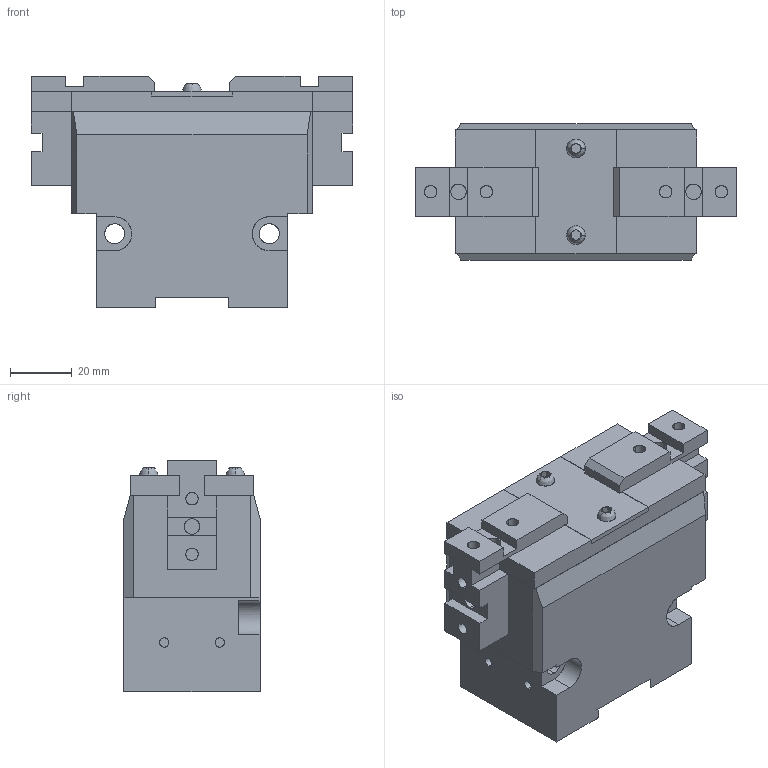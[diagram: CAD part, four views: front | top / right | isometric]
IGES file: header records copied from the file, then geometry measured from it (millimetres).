
Global section: file name: C:\Documents and Settings\Administrateur\Mes documents\OPE-80-X-OPEN.igs; native system: AutoCAD-16.0s (LMS Tech) (Microsoft Windows NT Version 5.1 (x86)); preprocessor: Autodesk IGES Translator Mechanical Desktop.R7.0.43.0 (Mar 18 2003) from Autodesk, Inc.; date: 20050628.200824; units: millimetre
Bounding box: 104 x 44 x 75 mm (x, y, z)
Surface area: 51395.4 mm2 (no closed solid volume)
Topology: 0 solids, 0 shells, 245 faces, 2548 edges, 2633 vertices
Faces by surface type: bspline 245
